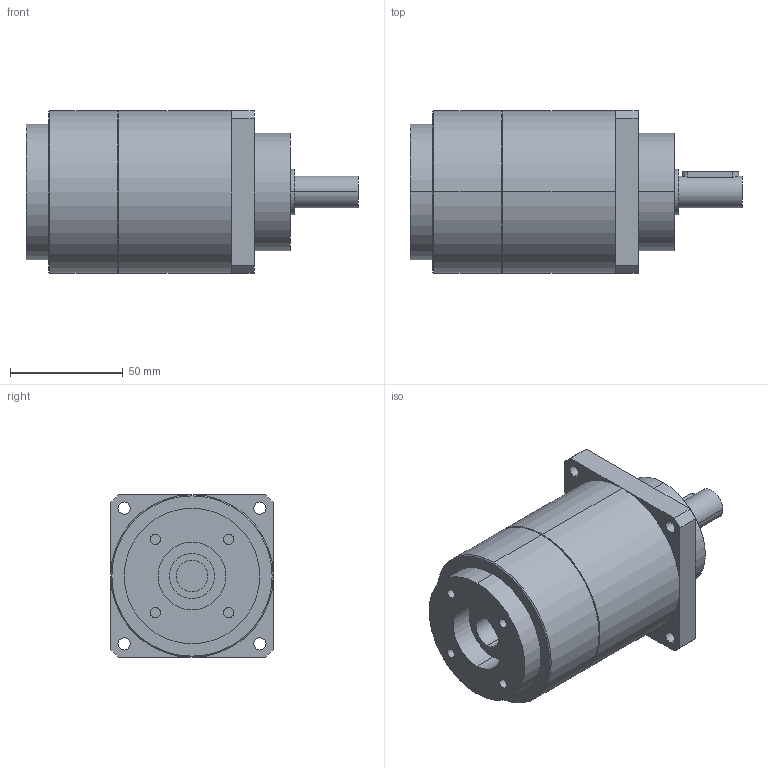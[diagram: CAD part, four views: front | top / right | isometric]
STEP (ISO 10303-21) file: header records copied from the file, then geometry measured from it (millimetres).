
FILE_DESCRIPTION(('CoCreate Modeling STEP Export'),'2;1');
FILE_NAME('GPT75_ig-9-12-16-20-25-28-35-40-50-70-100_14_B5T_14_P21.stp','2014-08-27T13:38:04',(''),(''),'CoCreate Modeling STEP processor for AP214 (Solid Model)','CoCreate Modeling 16.00C 25-Feb-2009 (C) Parametric Technology GmbH','');
FILE_SCHEMA(('AUTOMOTIVE_DESIGN { 1 0 10303 214 1 1 1 1 }'));
Length unit declared in the file: millimetre
Products named in the file (2): GPT75_ig-9-12-16-20-25-28-35-40-50-70-100_14_B5T_14_P21
Assembly tree (1 placements, depth 2):
  GPT75_ig-9-12-16-20-25-28-35-40-50-70-100_14_B5T_14_P21
    GPT75_ig-9-12-16-20-25-28-35-40-50-70-100_14_B5T_14_P21
Bounding box: 147 x 72 x 72 mm (x, y, z)
Volume: 436070.8 mm3; surface area: 41343.7 mm2
Topology: 1 solids, 1 shells, 72 faces, 170 edges, 113 vertices
Faces by surface type: cylinder 42, plane 26, cone 4
Entity records: 2201 total; most frequent: CARTESIAN_POINT 669, ORIENTED_EDGE 340, DIRECTION 268, EDGE_CURVE 170, VERTEX_POINT 113, AXIS2_PLACEMENT_3D 100, EDGE_LOOP 93, FACE_OUTER_BOUND 72
